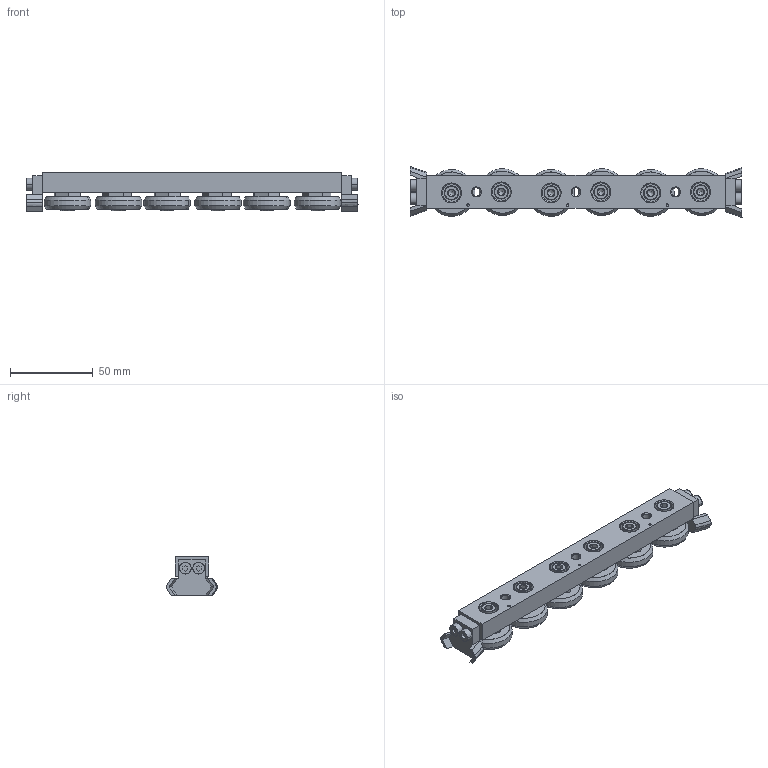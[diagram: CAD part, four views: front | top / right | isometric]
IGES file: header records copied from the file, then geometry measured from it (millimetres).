
Start section: SolidWorks IGES file using analytic representation for surfaces
Global section: file name: C:\Users\liam_\OneDrive\Documents\WORK\Work for WixRoyd\Job Files\J-00018 - L1918-L1963 LCompact Rail\L1935_v2\L1935.CSW35_v2\L1935.CSW35_v2_20190522_IGES\L1935.CSW35-180-2RSTB.igs; native system: SolidWorks 2017; preprocessor: SolidWorks 2017; author: liam_; date: 190528.223153; units: millimetre
Bounding box: 200 x 30.56 x 23.2 mm (x, y, z)
Surface area: 32385.7 mm2 (no closed solid volume)
Topology: 0 solids, 0 shells, 588 faces, 6982 edges, 6946 vertices
Faces by surface type: revolution 316, bspline 272
